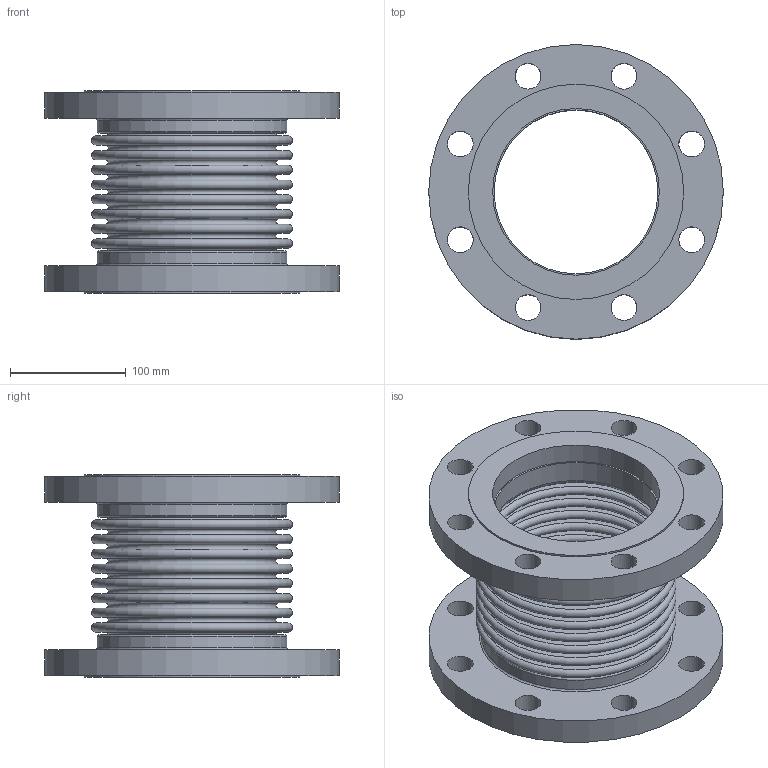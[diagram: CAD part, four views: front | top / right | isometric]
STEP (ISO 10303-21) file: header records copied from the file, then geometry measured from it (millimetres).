
FILE_DESCRIPTION(/* description */ ('EXPANSION JOINT,SINGLE, FLANGED ENDS,5 INCH NOMINAL','CAx-IF Rec.Pracs.---Representation and Presentation of Product Manufacturing Information (PMI)---4.0---2014-10-13'),/* implementation_level */ '2;1');
FILE_NAME(/* name */ 'US-05-8-300S-FLANGED ENDS.stp',/* time_stamp */ '2026-07-31T17:03:19-05:00',/* author */ ('Guadalupe'),/* organization */ (''),/* preprocessor_version */ 'ST-DEVELOPER v20.1',/* originating_system */ 'Autodesk Inventor 2026',/* authorisation */ '');
FILE_SCHEMA (('AP242_MANAGED_MODEL_BASED_3D_ENGINEERING_MIM_LF { 1 0 10303 442 2 1 4 }'));
Length unit declared in the file: inch
Products named in the file (3): 05-300S; 05-300S-02; 05-300S-01
Assembly tree (3 placements, depth 2):
  05-300S
    05-300S-02  x2
    05-300S-01
Bounding box: 254 x 254 x 174.75 mm (x, y, z)
Volume: 1797669.8 mm3; surface area: 554672.5 mm2
Topology: 5 solids, 5 shells, 112 faces, 198 edges, 132 vertices
Faces by surface type: plane 46, torus 38, cylinder 28
Full cylindrical faces by diameter (mm): 22.225 x16, 141.224 x2, 143.764 x2, 144.272 x2, 163.576 x2, 185.674 x2, 254 x2
Entity records: 2558 total; most frequent: DIRECTION 522, CARTESIAN_POINT 377, ORIENTED_EDGE 312, AXIS2_PLACEMENT_3D 253, EDGE_CURVE 156, EDGE_LOOP 152, CIRCLE 140, VERTEX_POINT 104
